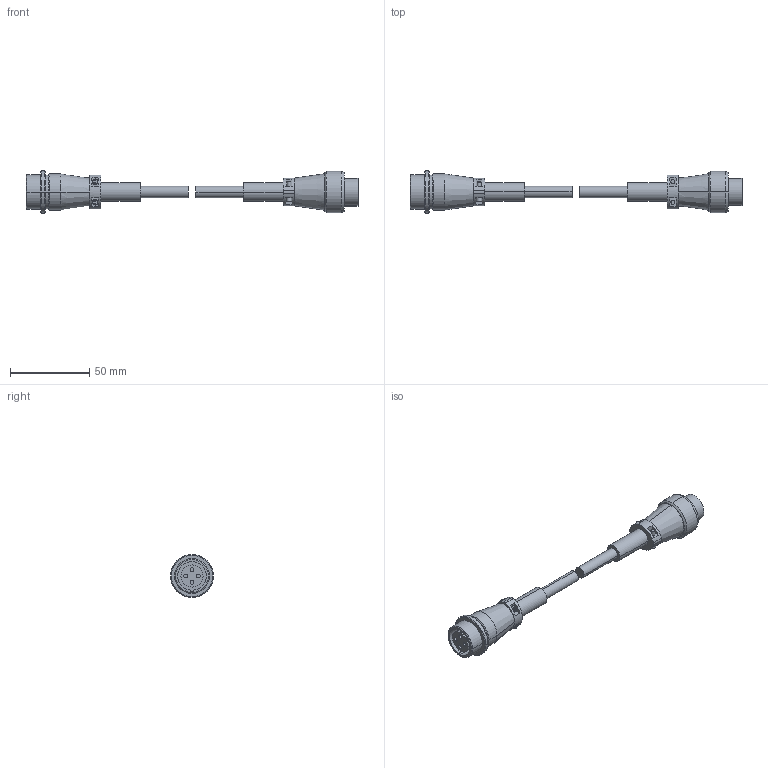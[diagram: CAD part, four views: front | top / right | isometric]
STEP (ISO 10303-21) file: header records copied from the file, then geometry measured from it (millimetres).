
FILE_DESCRIPTION((''),'2;1');
FILE_NAME('MV-LW-005-1-K_ASM','2021-01-09T',('win7'),(''),'PRO/ENGINEER BY PARAMETRIC TECHNOLOGY CORPORATION, 2010100','PRO/ENGINEER BY PARAMETRIC TECHNOLOGY CORPORATION, 2010100','');
FILE_SCHEMA(('CONFIG_CONTROL_DESIGN'));
Length unit declared in the file: millimetre
Products named in the file (3): 20M-4J-; 20M-4K-; MV-LW-005-1-K_ASM
Assembly tree (2 placements, depth 2):
  MV-LW-005-1-K_ASM
    20M-4J-
    20M-4K-
Bounding box: 209 x 27 x 27 mm (x, y, z)
Volume: 37313.5 mm3; surface area: 14363.9 mm2
Topology: 2 solids, 2 shells, 218 faces, 488 edges, 314 vertices
Faces by surface type: plane 124, cylinder 66, cone 28
Entity records: 6150 total; most frequent: DIRECTION 1116, CARTESIAN_POINT 1025, ORIENTED_EDGE 976, EDGE_CURVE 488, AXIS2_PLACEMENT_3D 405, VERTEX_POINT 314, VECTOR 306, LINE 306
